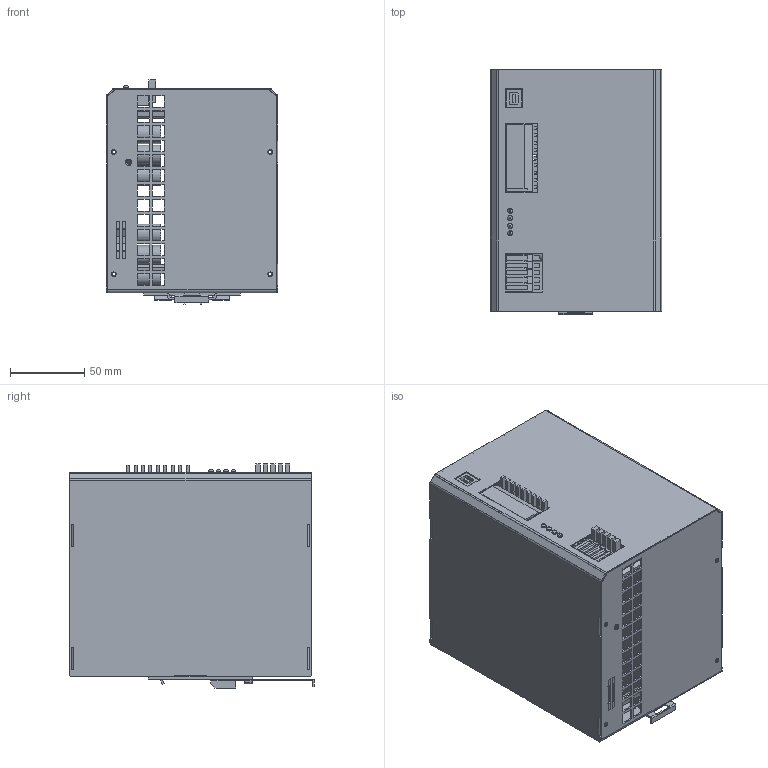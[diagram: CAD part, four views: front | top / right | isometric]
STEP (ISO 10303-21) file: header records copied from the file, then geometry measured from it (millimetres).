
FILE_DESCRIPTION(/* description */ (''),/* implementation_level */ '2;1');
FILE_NAME(/* name */ 'O:\Projekte_G\0606G01\Mechanik\3D\0606G01-1.stp',/* time_stamp */ '2016-04-06T09:33:52+02:00',/* author */ ('mhe'),/* organization */ (''),/* preprocessor_version */ 'ST-DEVELOPER v15.6',/* originating_system */ 'Autodesk Inventor 2015',/* authorisation */ '');
FILE_SCHEMA (('AUTOMOTIVE_DESIGN { 1 0 10303 214 3 1 1 }'));
Length unit declared in the file: millimetre
Products named in the file (78): 1; 2; 3; 4; 5; 6; 7; 8; 9; 10; 11; 13; 14; 15; 16; 17; 18; 19; 20; 21; 22; 23; 24; 25; 26; 27; 28; 29; 30; 31; 32; 33; 34; 35; 36; 37; 38; 39; 41; 42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
Bounding box: 115.59 x 165 x 151 mm (x, y, z)
Volume: 525519.2 mm3; surface area: 401057.8 mm2
Topology: 69 solids, 77 shells, 1226 faces, 3132 edges, 2076 vertices
Faces by surface type: plane 984, cylinder 230, cone 8, bspline 4
Full cylindrical faces by diameter (mm): 2.3 x4, 2.46 x18, 2.5 x8, 3 x12, 3.2 x25, 3.5 x4, 4 x6, 4.1 x4, 4.2 x2, 13 x6, 33 x6
Entity records: 38950 total; most frequent: CARTESIAN_POINT 6582, DIRECTION 6261, ORIENTED_EDGE 6034, EDGE_CURVE 3021, LINE 2527, VECTOR 2527, VERTEX_POINT 2068, AXIS2_PLACEMENT_3D 1867
